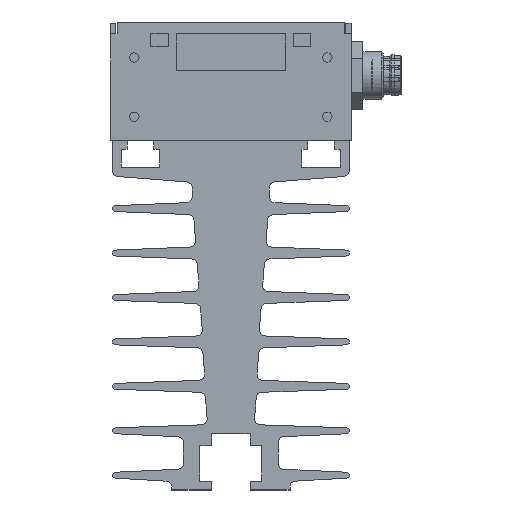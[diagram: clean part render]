
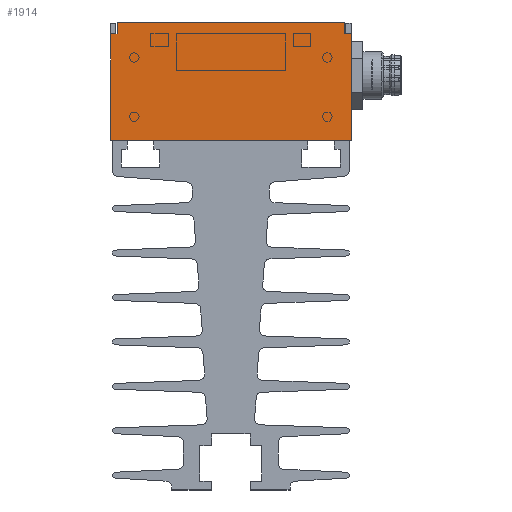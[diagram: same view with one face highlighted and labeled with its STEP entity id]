
A CAD part, left-side view. The second image highlights one B-rep face of the part: STEP entity #1914.
In plain terms, the highlighted planar face has unit normal (-1, 0, 0).
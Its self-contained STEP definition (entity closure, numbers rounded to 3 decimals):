
#1914=ADVANCED_FACE('23:2665',(#3929),#3930,.T.);
#3929=FACE_OUTER_BOUND('',#5930,.T.);
#3930=PLANE('',#5931);
#5930=EDGE_LOOP('',(#11232,#11233,#11234,#11235,#11236,#11237,#11238,#11239));
#5931=AXIS2_PLACEMENT_3D('',#11240,#11241,#11242);
#11232=ORIENTED_EDGE('',*,*,#12877,.T.);
#11233=ORIENTED_EDGE('',*,*,#12256,.F.);
#11234=ORIENTED_EDGE('',*,*,#12993,.F.);
#11235=ORIENTED_EDGE('',*,*,#12924,.F.);
#11236=ORIENTED_EDGE('',*,*,#11556,.F.);
#11237=ORIENTED_EDGE('',*,*,#12444,.F.);
#11238=ORIENTED_EDGE('',*,*,#12583,.F.);
#11239=ORIENTED_EDGE('',*,*,#11898,.T.);
#11240=CARTESIAN_POINT('',(-239.5,0.,18.));
#11241=DIRECTION('',(-1.0,0.0,0.0));
#11242=DIRECTION('',(0.0,-1.0,0.0));
#11556=EDGE_CURVE('',#13819,#13815,#13821,.T.);
#11898=EDGE_CURVE('',#14388,#14386,#14389,.T.);
#12256=EDGE_CURVE('',#14932,#14927,#14934,.F.);
#12444=EDGE_CURVE('',#15202,#13819,#15203,.T.);
#12583=EDGE_CURVE('',#14388,#15202,#15387,.T.);
#12877=EDGE_CURVE('',#14386,#14927,#15771,.T.);
#12924=EDGE_CURVE('',#13815,#15834,#15835,.T.);
#12993=EDGE_CURVE('',#15834,#14932,#15924,.T.);
#13815=VERTEX_POINT('',#16925);
#13819=VERTEX_POINT('',#16931);
#13821=LINE('',#16934,#16935);
#14386=VERTEX_POINT('',#17638);
#14388=VERTEX_POINT('',#17641);
#14389=LINE('',#17642,#17643);
#14927=VERTEX_POINT('',#18352);
#14932=VERTEX_POINT('',#18359);
#14934=LINE('',#18362,#18363);
#15202=VERTEX_POINT('',#18710);
#15203=LINE('',#18711,#18712);
#15387=LINE('',#18977,#18978);
#15771=LINE('',#19468,#19469);
#15834=VERTEX_POINT('',#19542);
#15835=LINE('',#19543,#19544);
#15924=LINE('',#19674,#19675);
#16925=CARTESIAN_POINT('',(-239.5,20.3,0.));
#16931=CARTESIAN_POINT('',(-239.5,-20.3,0.));
#16934=CARTESIAN_POINT('',(-239.5,-20.3,0.));
#16935=VECTOR('',#20526,1.0);
#17638=CARTESIAN_POINT('',(-239.5,-19.2,20.));
#17641=CARTESIAN_POINT('',(-239.5,-19.2,18.));
#17642=CARTESIAN_POINT('',(-239.5,-19.2,18.));
#17643=VECTOR('',#21044,1.0);
#18352=CARTESIAN_POINT('',(-239.5,19.2,20.));
#18359=CARTESIAN_POINT('',(-239.5,19.2,18.));
#18362=CARTESIAN_POINT('',(-239.5,19.2,18.));
#18363=VECTOR('',#21540,1.0);
#18710=CARTESIAN_POINT('',(-239.5,-20.3,18.));
#18711=CARTESIAN_POINT('',(-239.5,-20.3,18.));
#18712=VECTOR('',#21803,1.0);
#18977=CARTESIAN_POINT('',(-239.5,20.3,18.));
#18978=VECTOR('',#21987,1.0);
#19468=CARTESIAN_POINT('',(-239.5,0.,20.));
#19469=VECTOR('',#22406,1.0);
#19542=CARTESIAN_POINT('',(-239.5,20.3,18.));
#19543=CARTESIAN_POINT('',(-239.5,20.3,0.));
#19544=VECTOR('',#22498,1.0);
#19674=CARTESIAN_POINT('',(-239.5,20.3,18.));
#19675=VECTOR('',#22582,1.0);
#20526=DIRECTION('',(0.,1.0,0.));
#21044=DIRECTION('',(0.0,0.0,1.0));
#21540=DIRECTION('',(0.0,0.0,-1.0));
#21803=DIRECTION('',(0.,0.,-1.0));
#21987=DIRECTION('',(0.,-1.0,0.));
#22406=DIRECTION('',(0.0,1.0,0.0));
#22498=DIRECTION('',(0.,0.,1.0));
#22582=DIRECTION('',(0.,-1.0,0.));
